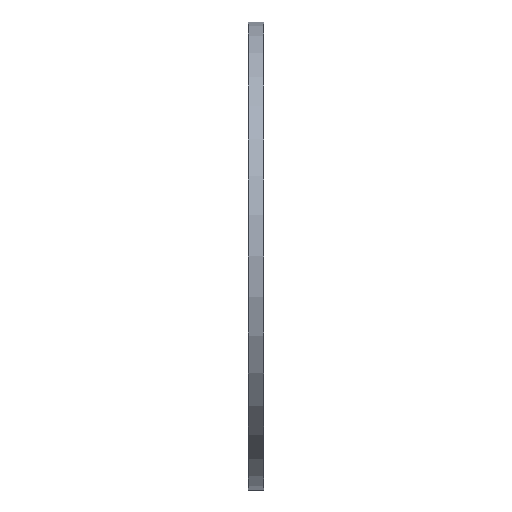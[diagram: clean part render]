
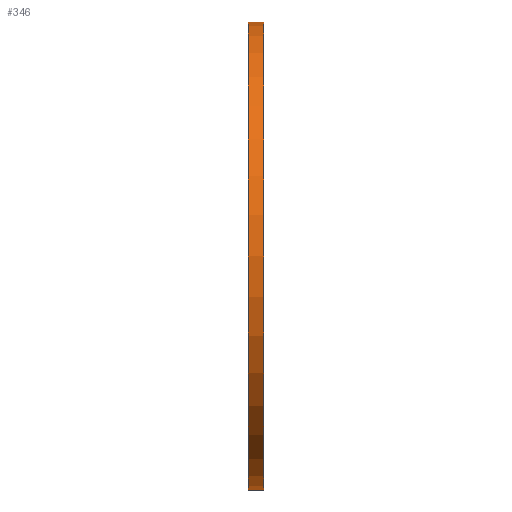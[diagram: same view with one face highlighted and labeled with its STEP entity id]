
A CAD part, left-side view. The second image highlights one B-rep face of the part: STEP entity #346.
In plain terms, the highlighted cylindrical face has radius 305 mm (diameter 610 mm), a partial arc.
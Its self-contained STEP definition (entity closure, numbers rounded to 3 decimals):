
#52 = AXIS2_PLACEMENT_3D ( 'NONE', #1222, #1242, #1247 ) ;
#113 = EDGE_CURVE ( 'NONE', #1080, #1099, #269, .T. ) ;
#132 = CARTESIAN_POINT ( 'NONE',  ( 0., 0., -305. ) ) ;
#144 = DIRECTION ( 'NONE',  ( 0., 0., -1. ) ) ;
#221 = DIRECTION ( 'NONE',  ( 0., -1., 0. ) ) ;
#231 = VERTEX_POINT ( 'NONE', #1396 ) ;
#269 = CIRCLE ( 'NONE', #52, 305. ) ;
#299 = AXIS2_PLACEMENT_3D ( 'NONE', #1481, #335, #549 ) ;
#335 = DIRECTION ( 'NONE',  ( 0., -1., 0. ) ) ;
#340 = ORIENTED_EDGE ( 'NONE', *, *, #516, .T. ) ;
#341 = ORIENTED_EDGE ( 'NONE', *, *, #113, .F. ) ;
#346 = ADVANCED_FACE ( 'NONE', ( #512 ), #623, .T. ) ;
#455 = CARTESIAN_POINT ( 'NONE',  ( 0., 0., -305. ) ) ;
#469 = LINE ( 'NONE', #804, #826 ) ;
#504 = CARTESIAN_POINT ( 'NONE',  ( 0., 0., 0. ) ) ;
#512 = FACE_OUTER_BOUND ( 'NONE', #1480, .T. ) ;
#516 = EDGE_CURVE ( 'NONE', #759, #1099, #1012, .T. ) ;
#539 = EDGE_CURVE ( 'NONE', #231, #759, #1310, .T. ) ;
#549 = DIRECTION ( 'NONE',  ( 0., 0., -1. ) ) ;
#577 = DIRECTION ( 'NONE',  ( 0., -1., 0. ) ) ;
#623 = CYLINDRICAL_SURFACE ( 'NONE', #969, 305. ) ;
#653 = ORIENTED_EDGE ( 'NONE', *, *, #701, .F. ) ;
#701 = EDGE_CURVE ( 'NONE', #231, #1080, #469, .T. ) ;
#759 = VERTEX_POINT ( 'NONE', #1224 ) ;
#804 = CARTESIAN_POINT ( 'NONE',  ( 0., 0., 305. ) ) ;
#826 = VECTOR ( 'NONE', #577, 1000. ) ;
#944 = VECTOR ( 'NONE', #221, 1000. ) ;
#947 = DIRECTION ( 'NONE',  ( 0., -1., 0. ) ) ;
#969 = AXIS2_PLACEMENT_3D ( 'NONE', #504, #947, #144 ) ;
#1012 = LINE ( 'NONE', #455, #944 ) ;
#1080 = VERTEX_POINT ( 'NONE', #1169 ) ;
#1091 = ORIENTED_EDGE ( 'NONE', *, *, #539, .T. ) ;
#1099 = VERTEX_POINT ( 'NONE', #132 ) ;
#1169 = CARTESIAN_POINT ( 'NONE',  ( 0., 0., 305. ) ) ;
#1222 = CARTESIAN_POINT ( 'NONE',  ( 0., 0., 0. ) ) ;
#1224 = CARTESIAN_POINT ( 'NONE',  ( 0., 20., -305. ) ) ;
#1242 = DIRECTION ( 'NONE',  ( 0., -1., 0. ) ) ;
#1247 = DIRECTION ( 'NONE',  ( 0., 0., -1. ) ) ;
#1310 = CIRCLE ( 'NONE', #299, 305. ) ;
#1396 = CARTESIAN_POINT ( 'NONE',  ( 0., 20., 305. ) ) ;
#1480 = EDGE_LOOP ( 'NONE', ( #653, #1091, #340, #341 ) ) ;
#1481 = CARTESIAN_POINT ( 'NONE',  ( 0., 20., 0. ) ) ;
